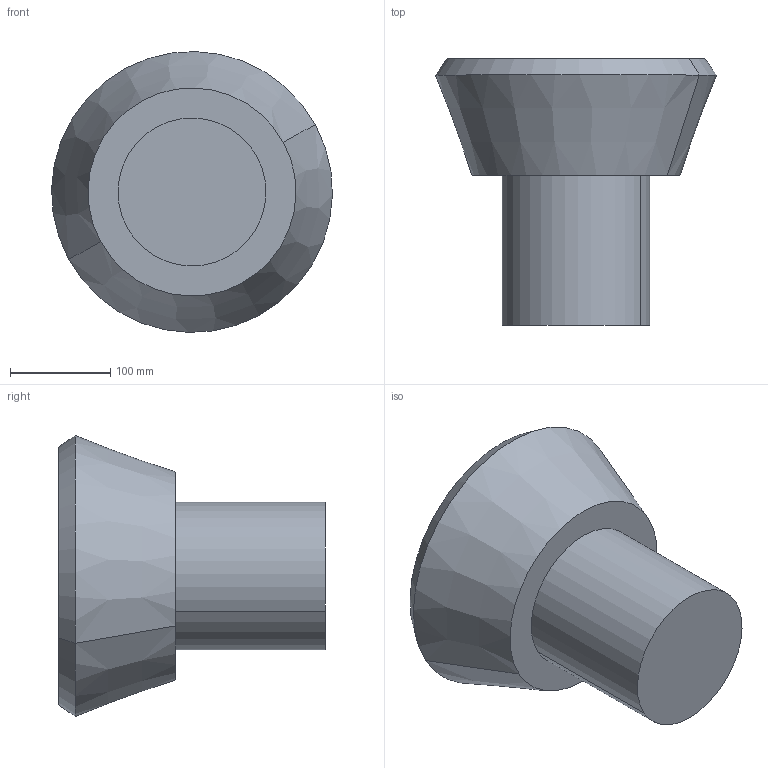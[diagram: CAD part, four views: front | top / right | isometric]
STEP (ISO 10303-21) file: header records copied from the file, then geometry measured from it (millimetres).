
FILE_DESCRIPTION(('CATIA V5 STEP Exchange'),'2;1');
FILE_NAME('C:\_Andres\UNIVERSIDAD\IQS\ASIGNATURAS\DAO\EXF\EXF-15161c\1original\Mas_Oliver_Ej09-optimiza_v14.stp','2016-03-04T21:55:29+00:00',('none'),('none'),'CATIA Version 5 Release 20 SP 1 (IN-10)','CATIA V5 STEP AP203','none');
FILE_SCHEMA(('CONFIG_CONTROL_DESIGN'));
Length unit declared in the file: millimetre
Products named in the file (1): Mas_Oliver_Ej09-optimiza_v14
Bounding box: 280.82 x 266.52 x 280.82 mm (x, y, z)
Volume: 8230696.4 mm3; surface area: 259146.7 mm2
Topology: 1 solids, 2 shells, 13 faces, 22 edges, 14 vertices
Faces by surface type: plane 5, cylinder 4, cone 4
Entity records: 324 total; most frequent: CARTESIAN_POINT 47, ORIENTED_EDGE 44, DIRECTION 42, AXIS2_PLACEMENT_3D 25, EDGE_CURVE 22, CIRCLE 14, EDGE_LOOP 14, VERTEX_POINT 14
